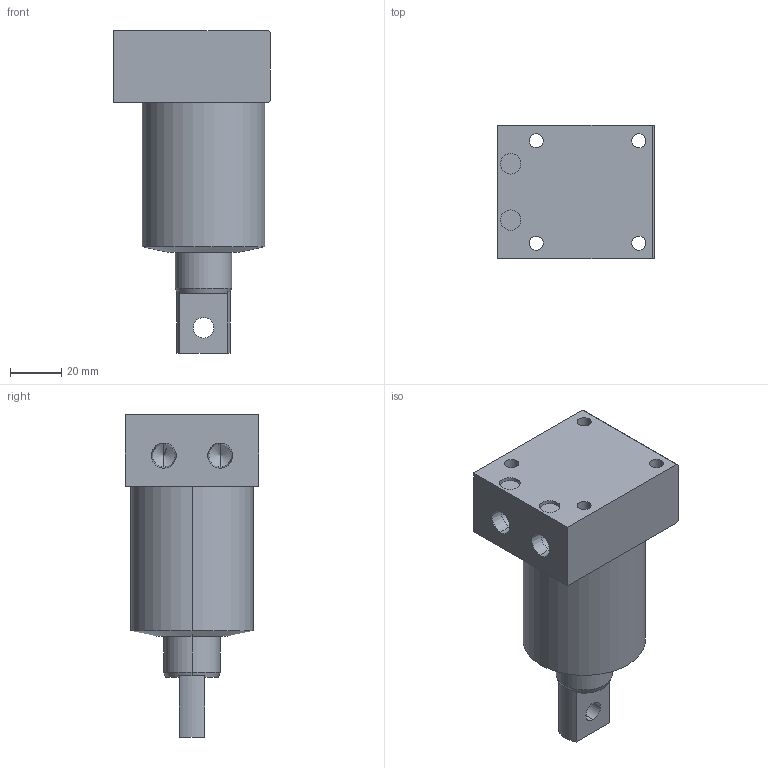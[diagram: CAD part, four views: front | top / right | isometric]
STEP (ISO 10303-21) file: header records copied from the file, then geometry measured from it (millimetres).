
FILE_DESCRIPTION (( 'STEP AP214' ), '1' );
FILE_NAME ('SB03-RP-PTYPE-BM.STEP', '2021-08-22T06:55:05', ( '' ), ( '' ), 'SwSTEP 2.0', 'SolidWorks 2019', '' );
FILE_SCHEMA (( 'AUTOMOTIVE_DESIGN' ));
Length unit declared in the file: millimetre
Products named in the file (3): BM-48-BODY; SB03-RP-PTYPE-BM; 48-PTYPE-PISTON
Assembly tree (2 placements, depth 2):
  SB03-RP-PTYPE-BM
    BM-48-BODY
    48-PTYPE-PISTON
Bounding box: 61 x 52 x 126 mm (x, y, z)
Volume: 193431.6 mm3; surface area: 36338 mm2
Topology: 2 solids, 2 shells, 57 faces, 134 edges, 83 vertices
Faces by surface type: cylinder 27, plane 18, cone 12
Entity records: 1753 total; most frequent: DIRECTION 313, CARTESIAN_POINT 287, ORIENTED_EDGE 260, EDGE_CURVE 130, AXIS2_PLACEMENT_3D 125, VERTEX_POINT 83, EDGE_LOOP 73, LINE 63
